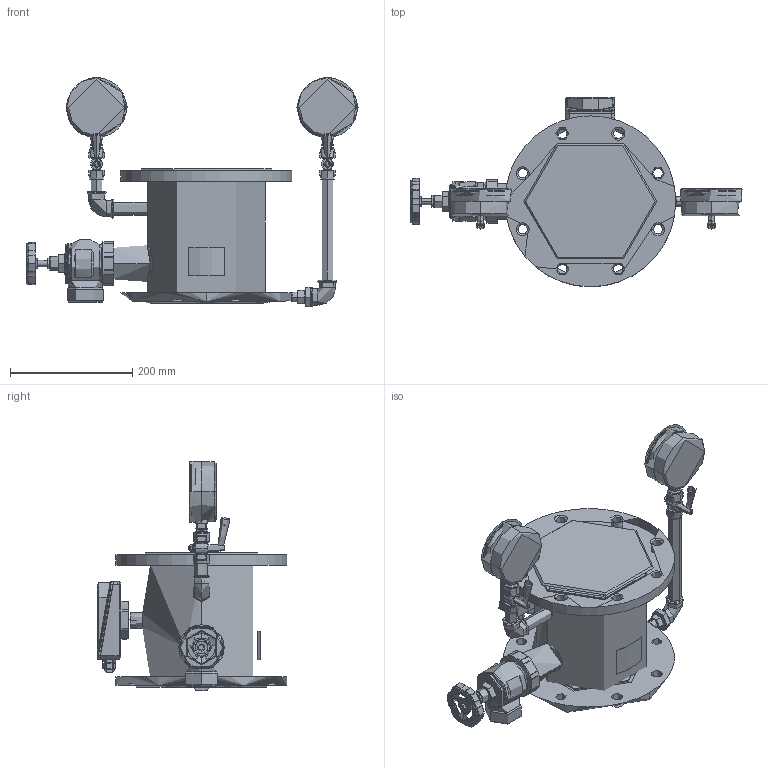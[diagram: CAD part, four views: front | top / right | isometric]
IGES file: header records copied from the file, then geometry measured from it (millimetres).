
Start section: File generated by T-FLEX CAD Version (null)
Global section: file name:           DN 150 3D.igs; native system: T-FLEX CAD; date: 211014.072407; units: millimetre
Bounding box: 543.85 x 310.94 x 376.5 mm (x, y, z)
Volume: 9089063.7 mm3; surface area: 781888.5 mm2
Topology: 22 solids, 31 shells, 2198 faces, 5336 edges, 3134 vertices
Faces by surface type: cylinder 802, plane 508, bspline 444, cone 208, revolution 190, sphere 46
